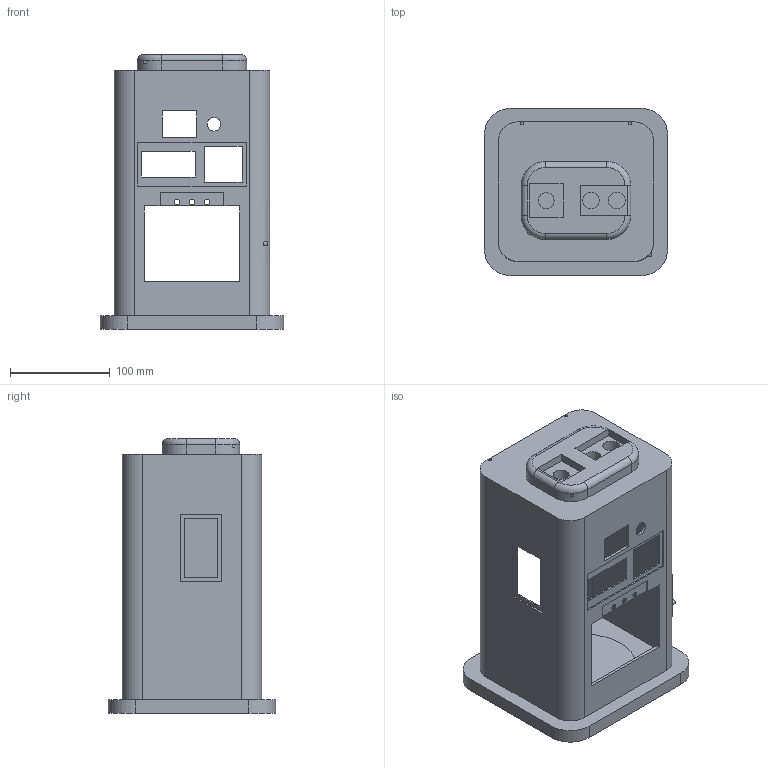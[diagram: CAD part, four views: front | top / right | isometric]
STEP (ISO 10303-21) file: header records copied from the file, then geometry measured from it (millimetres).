
FILE_DESCRIPTION(('Open CASCADE Model'),'2;1');
FILE_NAME('Open CASCADE Shape Model','2026-09-22T16:34:15',('Author'),( 'Open CASCADE'),'Open CASCADE STEP processor 7.9','Open CASCADE 7.9' ,'Unknown');
FILE_SCHEMA(('AUTOMOTIVE_DESIGN { 1 0 10303 214 1 1 1 1 }'));
Length unit declared in the file: millimetre
Products named in the file (1): Open CASCADE STEP translator 7.9 1
Bounding box: 184 x 168 x 276 mm (x, y, z)
Volume: 944219.3 mm3; surface area: 312384.5 mm2
Topology: 1 solids, 1 shells, 133 faces, 351 edges, 228 vertices
Faces by surface type: plane 88, cylinder 41, torus 4
Full cylindrical faces by diameter (mm): 2.2 x4, 4 x2, 5.4 x3, 13.6 x1, 16 x1, 16.8 x2, 108 x1
Entity records: 8814 total; most frequent: CARTESIAN_POINT 2007, DIRECTION 1179, ORIENTED_EDGE 702, PCURVE 702, DEFINITIONAL_REPRESENTATION 702, LINE 668, VECTOR 668, EDGE_CURVE 351
